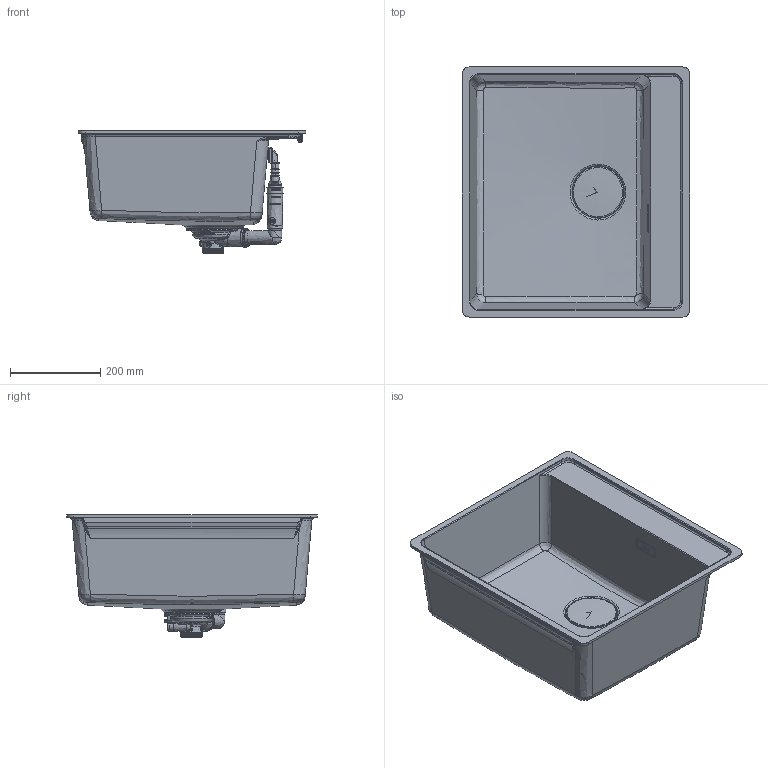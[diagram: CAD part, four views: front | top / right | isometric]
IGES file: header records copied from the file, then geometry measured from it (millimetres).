
Global section: file name: MRG 210-52 TL; native system: Autodesk Inventor 2021; preprocessor: unknown; date: 20210929.151458; units: millimetre
Bounding box: 503 x 553 x 271.19 mm (x, y, z)
Volume: 4401195.4 mm3; surface area: 1372803.8 mm2
Topology: 20 solids, 21 shells, 5093 faces, 13660 edges, 8794 vertices
Faces by surface type: bspline 5093
